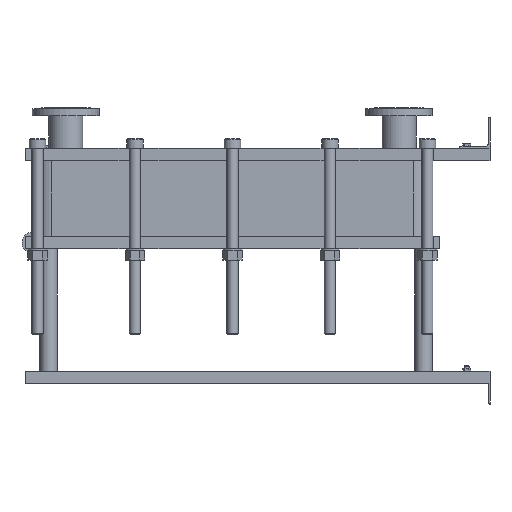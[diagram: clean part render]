
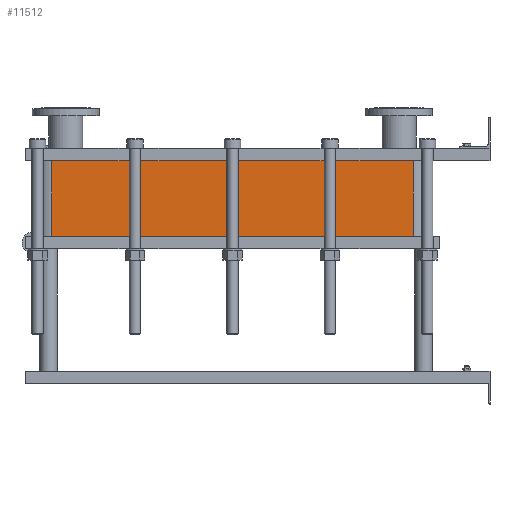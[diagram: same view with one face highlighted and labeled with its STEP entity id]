
A CAD part, left-side view. The second image highlights one B-rep face of the part: STEP entity #11512.
In plain terms, the highlighted planar face has unit normal (-1, 0, 0).
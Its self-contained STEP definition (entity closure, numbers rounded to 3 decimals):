
#1129=LINE('',#23232,#2102);
#1130=LINE('',#23236,#2103);
#1131=LINE('',#23238,#2104);
#1132=LINE('',#23239,#2105);
#2102=VECTOR('',#15887,10.);
#2103=VECTOR('',#15892,10.);
#2104=VECTOR('',#15893,10.);
#2105=VECTOR('',#15894,10.);
#3267=FACE_OUTER_BOUND('',#4093,.T.);
#4093=EDGE_LOOP('',(#10103,#10104,#10105,#10106));
#5642=VERTEX_POINT('',#23229);
#5643=VERTEX_POINT('',#23231);
#5644=VERTEX_POINT('',#23235);
#5645=VERTEX_POINT('',#23237);
#7159=EDGE_CURVE('',#5643,#5642,#1129,.T.);
#7161=EDGE_CURVE('',#5642,#5644,#1130,.T.);
#7162=EDGE_CURVE('',#5645,#5644,#1131,.T.);
#7163=EDGE_CURVE('',#5645,#5643,#1132,.T.);
#10103=ORIENTED_EDGE('',*,*,#7161,.T.);
#10104=ORIENTED_EDGE('',*,*,#7162,.F.);
#10105=ORIENTED_EDGE('',*,*,#7163,.T.);
#10106=ORIENTED_EDGE('',*,*,#7159,.T.);
#10857=PLANE('',#12751);
#11512=ADVANCED_FACE('',(#3267),#10857,.T.);
#12751=AXIS2_PLACEMENT_3D('',#23234,#15890,#15891);
#15887=DIRECTION('',(0.,0.,-1.));
#15890=DIRECTION('center_axis',(-1.,0.,0.));
#15891=DIRECTION('ref_axis',(0.,1.,0.));
#15892=DIRECTION('',(0.,-1.,0.));
#15893=DIRECTION('',(0.,0.,-1.));
#15894=DIRECTION('',(0.,1.,0.));
#23229=CARTESIAN_POINT('',(-200.,1414.,-244.95));
#23231=CARTESIAN_POINT('',(-200.,1414.,0.));
#23232=CARTESIAN_POINT('',(-200.,1414.,0.));
#23234=CARTESIAN_POINT('Origin',(-200.,248.,0.));
#23235=CARTESIAN_POINT('',(-200.,248.,-244.95));
#23236=CARTESIAN_POINT('',(-200.,539.5,-244.95));
#23237=CARTESIAN_POINT('',(-200.,248.,0.));
#23238=CARTESIAN_POINT('',(-200.,248.,0.));
#23239=CARTESIAN_POINT('',(-200.,248.,0.));
